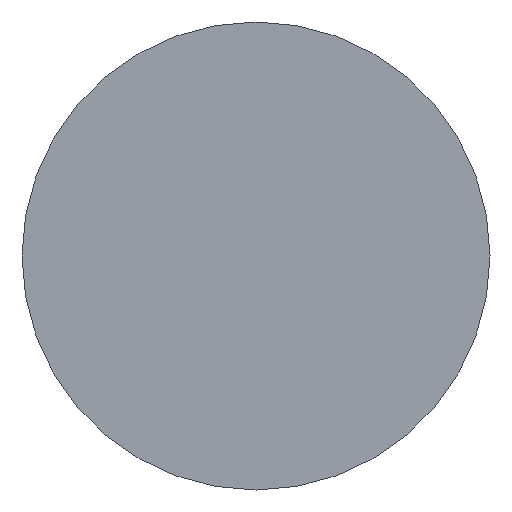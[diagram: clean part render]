
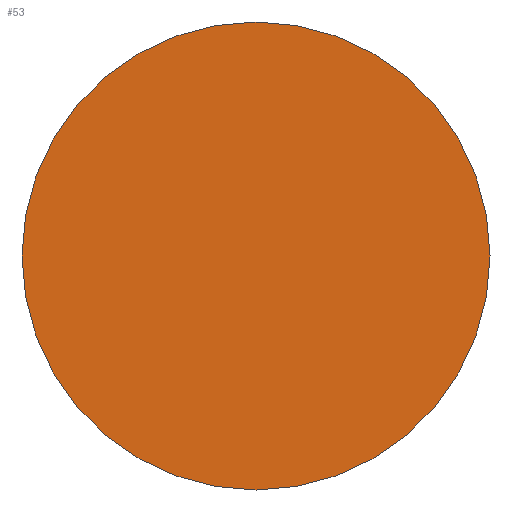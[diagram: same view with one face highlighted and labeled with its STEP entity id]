
A CAD part, left-side view. The second image highlights one B-rep face of the part: STEP entity #53.
In plain terms, the highlighted planar face has unit normal (-1, 0, 0).
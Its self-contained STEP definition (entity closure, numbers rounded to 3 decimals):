
#1 = DIRECTION ( 'NONE',  ( 1., 0., 0. ) ) ;
#12 = CARTESIAN_POINT ( 'NONE',  ( 0., 0., 0. ) ) ;
#18 = FACE_OUTER_BOUND ( 'NONE', #149, .T. ) ;
#32 = EDGE_CURVE ( 'NONE', #187, #151, #101, .T. ) ;
#38 = AXIS2_PLACEMENT_3D ( 'NONE', #268, #176, #241 ) ;
#53 = ADVANCED_FACE ( 'NONE', ( #18 ), #130, .T. ) ;
#69 = CIRCLE ( 'NONE', #96, 16. ) ;
#70 = AXIS2_PLACEMENT_3D ( 'NONE', #272, #222, #248 ) ;
#96 = AXIS2_PLACEMENT_3D ( 'NONE', #12, #1, #251 ) ;
#101 = CIRCLE ( 'NONE', #70, 16. ) ;
#130 = PLANE ( 'NONE',  #38 ) ;
#142 = CARTESIAN_POINT ( 'NONE',  ( 0., -16., 0. ) ) ;
#149 = EDGE_LOOP ( 'NONE', ( #214, #231 ) ) ;
#151 = VERTEX_POINT ( 'NONE', #142 ) ;
#176 = DIRECTION ( 'NONE',  ( -1., 0., 0. ) ) ;
#187 = VERTEX_POINT ( 'NONE', #225 ) ;
#214 = ORIENTED_EDGE ( 'NONE', *, *, #32, .F. ) ;
#222 = DIRECTION ( 'NONE',  ( 1., 0., 0. ) ) ;
#225 = CARTESIAN_POINT ( 'NONE',  ( 0., 16., 0. ) ) ;
#231 = ORIENTED_EDGE ( 'NONE', *, *, #257, .F. ) ;
#241 = DIRECTION ( 'NONE',  ( 0., -1., 0. ) ) ;
#248 = DIRECTION ( 'NONE',  ( 0., 1., 0. ) ) ;
#251 = DIRECTION ( 'NONE',  ( 0., 1., 0. ) ) ;
#257 = EDGE_CURVE ( 'NONE', #151, #187, #69, .T. ) ;
#268 = CARTESIAN_POINT ( 'NONE',  ( 0., 0., 0. ) ) ;
#272 = CARTESIAN_POINT ( 'NONE',  ( 0., 0., 0. ) ) ;
